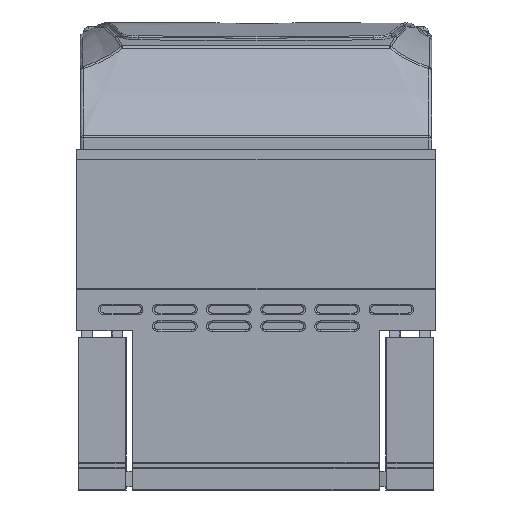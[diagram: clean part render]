
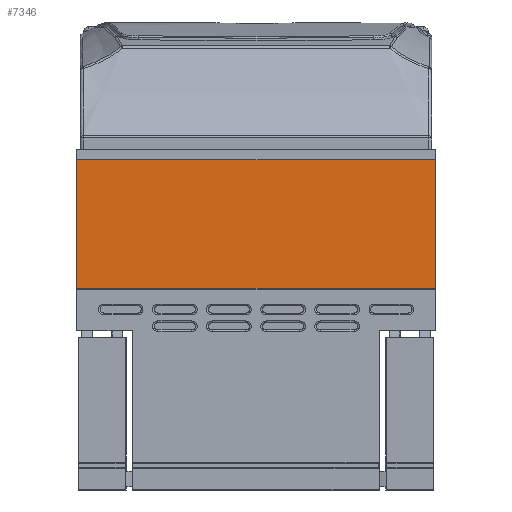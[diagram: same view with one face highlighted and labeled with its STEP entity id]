
A CAD part, left-side view. The second image highlights one B-rep face of the part: STEP entity #7346.
In plain terms, the highlighted planar face has unit normal (-1, 0, 0).
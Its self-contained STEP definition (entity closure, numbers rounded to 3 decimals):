
#7346=ADVANCED_FACE('',(#9972),#9273,.F.);
#9273=PLANE('',#39500);
#9972=FACE_OUTER_BOUND('',#11924,.T.);
#11924=EDGE_LOOP('',(#15219,#15220,#15221,#15222));
#15219=ORIENTED_EDGE('',*,*,#29249,.F.);
#15220=ORIENTED_EDGE('',*,*,#29384,.F.);
#15221=ORIENTED_EDGE('',*,*,#29171,.T.);
#15222=ORIENTED_EDGE('',*,*,#29385,.T.);
#25561=VERTEX_POINT('',#57778);
#25566=VERTEX_POINT('',#57790);
#25641=VERTEX_POINT('',#58061);
#25642=VERTEX_POINT('',#58063);
#29171=EDGE_CURVE('',#25561,#25566,#33958,.T.);
#29249=EDGE_CURVE('',#25641,#25642,#33964,.T.);
#29384=EDGE_CURVE('',#25561,#25641,#34017,.T.);
#29385=EDGE_CURVE('',#25566,#25642,#34018,.T.);
#33958=LINE('',#57791,#36451);
#33964=LINE('',#58062,#36457);
#34017=LINE('',#58465,#36510);
#34018=LINE('',#58466,#36511);
#36451=VECTOR('',#42923,1.);
#36457=VECTOR('',#43027,1.);
#36510=VECTOR('',#43262,1.);
#36511=VECTOR('',#43263,1.);
#39500=AXIS2_PLACEMENT_3D('',#58467,#43264,#43265);
#42923=DIRECTION('',(0.,0.,-1.));
#43027=DIRECTION('',(0.,0.,-1.));
#43262=DIRECTION('',(0.,-1.,0.));
#43263=DIRECTION('',(0.,-1.,0.));
#43264=DIRECTION('',(1.,0.,0.));
#43265=DIRECTION('',(0.,1.,0.));
#57778=CARTESIAN_POINT('',(-91.5,53.,68.7));
#57790=CARTESIAN_POINT('',(-91.5,53.,30.7));
#57791=CARTESIAN_POINT('',(-91.5,53.,27.2));
#58061=CARTESIAN_POINT('',(-91.5,-53.,68.7));
#58062=CARTESIAN_POINT('',(-91.5,-53.,27.));
#58063=CARTESIAN_POINT('',(-91.5,-53.,30.7));
#58465=CARTESIAN_POINT('',(-91.5,46.,68.7));
#58466=CARTESIAN_POINT('',(-91.5,50.,30.7));
#58467=CARTESIAN_POINT('',(-91.5,50.,27.2));
